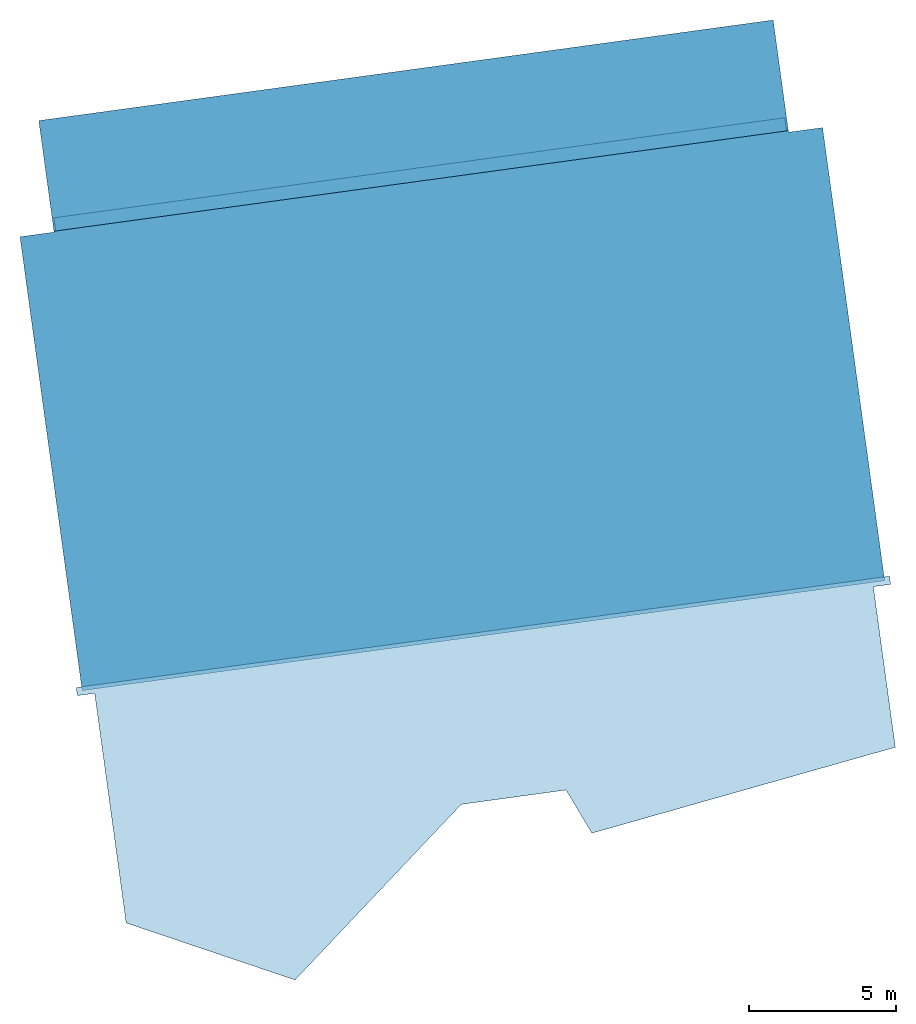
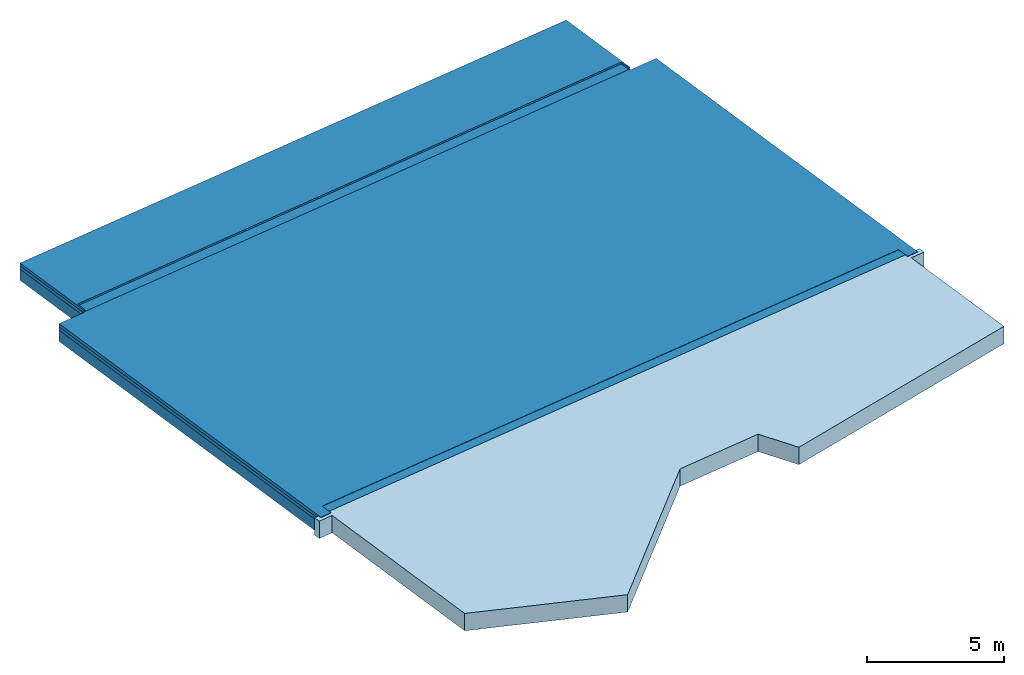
# One storey: 6 building element parts, 1 slab, 2 elements without a shape of their own.
"""IFC2X3 building model written with IfcOpenShell, lengths in metres."""

from ifc_helpers import new_model, entity, si_unit, converted_unit, derived_unit, money_unit, direction, frame, origin_with_axes, place, context, subcontext, project, spatial, polyline, outline, extrude, boolean, faceted_brep, material, layer, layer_set, layer_usage, type_object, element, aggregate, save


model = new_model("IFC2X3")

# Units and contexts
model_context = context("Model", 3, precision=1e-05, world=origin_with_axes(), true_north=direction((0.0, 1.0)))
body_context = subcontext(model_context, "Body", "Model", "MODEL_VIEW")
ifc_project = project(units=[si_unit("LENGTHUNIT", "METRE"), si_unit("AREAUNIT", "SQUARE_METRE"), si_unit("VOLUMEUNIT", "CUBIC_METRE"), converted_unit("PLANEANGLEUNIT", "DEGREE", entity("IfcPlaneAngleMeasure", 0.0174532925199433), si_unit("PLANEANGLEUNIT", "RADIAN"), dimensions=[0, 0, 0, 0, 0, 0, 0]), money_unit("EUR"), converted_unit("TIMEUNIT", "Year", entity("IfcTimeMeasure", 31557600.0), si_unit("TIMEUNIT", "SECOND"), dimensions=[0, 0, 1, 0, 0, 0, 0]), si_unit("MASSUNIT", "GRAM", prefix="KILO"), si_unit("THERMODYNAMICTEMPERATUREUNIT", "DEGREE_CELSIUS"), si_unit("LUMINOUSINTENSITYUNIT", "LUMEN"), si_unit("ENERGYUNIT", "JOULE", prefix="MEGA"), derived_unit("THERMALCONDUCTANCEUNIT", [(si_unit("POWERUNIT", "WATT"), 1), (si_unit("LENGTHUNIT", "METRE"), -1), (si_unit("THERMODYNAMICTEMPERATUREUNIT", "KELVIN"), -1)]), derived_unit("SPECIFICHEATCAPACITYUNIT", [(si_unit("ENERGYUNIT", "JOULE"), 1), (si_unit("MASSUNIT", "GRAM", prefix="KILO"), -1), (si_unit("THERMODYNAMICTEMPERATUREUNIT", "KELVIN"), -1)]), derived_unit("MASSDENSITYUNIT", [(si_unit("MASSUNIT", "GRAM", prefix="KILO"), 1), (si_unit("VOLUMEUNIT", "CUBIC_METRE"), -1)])], contexts=[model_context])

# Site, building, storey
site_placement = place(None, origin_with_axes())
site = spatial("IfcSite", under=ifc_project, at=site_placement, Name="Gelände", CompositionType="ELEMENT")
building_placement = place(site_placement, origin_with_axes())
building = spatial("IfcBuilding", under=site, at=building_placement, Name="Gebäude", CompositionType="ELEMENT")
storey_placement = place(building_placement, frame((0.0, 0.0, -3.0), z_axis=(0.0, 0.0, 1.0), x_axis=(1.0, 0.0, 0.0)))
storey = spatial("IfcBuildingStorey", under=building, at=storey_placement, Name="Gelände", CompositionType="ELEMENT", Elevation=-3.0)

# Slab
ifc_material_1 = material(Name="Dämmung, hart Mineralwolle")
ifc_layer_1 = layer(ifc_material_1, 0.12, ventilated="UNKNOWN")
ifc_material_2 = material(Name="Boden, Schüttung")
ifc_layer_2 = layer(ifc_material_2, 0.15, ventilated="UNKNOWN")
ifc_material_3 = material(Name="Boden, Kies")
ifc_layer_3 = layer(ifc_material_3, 0.5, ventilated="UNKNOWN")
ifc_layer_set = layer_set([ifc_layer_1, ifc_layer_2, ifc_layer_3], Name="BO |\xa0unter Bopl Geräte")
ifc_layer_usage = layer_usage(ifc_layer_set, "AXIS3", "NEGATIVE", 0.77)
slab_type_1 = type_object("IfcSlabType", Name="BO |\xa0unter Bopl Geräte 770", PredefinedType="FLOOR")
slab_1_placement = place(storey_placement, frame((86.34992314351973, -151.007854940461, 2.566999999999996), z_axis=(0.0, 0.0, 1.0), x_axis=(1.0, 0.0, 0.0)))
element("IfcSlab", 1, at=slab_1_placement, inside=storey, type_object=slab_type_1, material=ifc_layer_usage, Name="Decke-005", PredefinedType="FLOOR", context=body_context, shape_type="SweptSolid", body=[
    extrude(outline(polyline([(0.0, 0.0), (0.03799914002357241, -0.2774096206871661), (0.6250175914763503, -0.1970007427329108), (1.69182758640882, -7.985160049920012), (7.420755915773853, -9.918800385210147), (13.05815841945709, -3.963108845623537), (16.61348512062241, -3.476105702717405), (17.48530183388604, -4.939782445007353), (27.77945616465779, -2.026014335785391), (27.03341737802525, 3.420380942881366), (27.62043574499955, 3.500789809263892), (27.58243660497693, 3.778199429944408), (0.0, 0.0)])), frame((0.0, 0.0, -0.77), z_axis=(0.0, 0.0, 1.0), x_axis=(1.0, 0.0, 0.0)), (0.0, 0.0, 1.0), 0.77),
])

# Slab, building element parts
slab_2_placement = place(storey_placement, frame((110.4999720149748, -132.1216968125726, 2.659999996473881), z_axis=(0.0, 0.0, 1.0), x_axis=(1.0, 0.0, 0.0)))
slab_2 = element("IfcSlab", 2, at=slab_2_placement, inside=storey, type_object=slab_type_1, Name="Decke-005", PredefinedType="FLOOR")
building_element_part_1_placement = place(slab_2_placement, origin_with_axes())
building_element_part_1 = element("IfcBuildingElementPart", 3, at=building_element_part_1_placement, material=ifc_material_3, Name="Boden, Kies", context=body_context, shape_type="CSG", body=[
    boolean("DIFFERENCE", extrude(outline(polyline([(0.0, 0.0), (-0.5140061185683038, 3.752459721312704), (-25.4208001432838, 0.3407656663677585), (-24.90679402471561, -3.411694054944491), (0.0, 0.0)])), frame((0.0, 0.0, -0.77), z_axis=(0.0, 0.0, 1.0), x_axis=(1.0, 0.0, 0.0)), (0.0, 0.0, 1.0), 0.5), faceted_brep([(-24.8473491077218, -3.403551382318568, -0.0779999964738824), (-0.05944487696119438, -0.008142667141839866, -0.0779999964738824), (-0.0594448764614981, -0.008142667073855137, 0.0), (-24.84734910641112, -3.403551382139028, 0.0), (-24.90844145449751, -2.957551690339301, -0.0779999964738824), (-0.1205372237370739, 0.4378570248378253, -0.0779999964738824), (-0.1205372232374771, 0.4378570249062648, 0.0), (-24.90844145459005, -2.957551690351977, 0.0)], [[[0, 1, 2, 3]], [[1, 0, 4, 5]], [[6, 2, 1, 5]], [[7, 3, 2, 6]], [[0, 3, 7, 4]], [[7, 6, 5, 4]]])),
])
building_element_part_2_placement = place(slab_2_placement, origin_with_axes())
building_element_part_2 = element("IfcBuildingElementPart", 4, at=building_element_part_2_placement, material=ifc_material_2, Name="Boden, Schüttung", context=body_context, shape_type="CSG", body=[
    boolean("DIFFERENCE", extrude(outline(polyline([(0.0, 0.0), (-0.5140061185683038, 3.752459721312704), (-25.4208001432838, 0.3407656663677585), (-24.90679402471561, -3.411694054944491), (0.0, 0.0)])), frame((0.0, 0.0, -0.27), z_axis=(0.0, 0.0, 1.0), x_axis=(1.0, 0.0, 0.0)), (0.0, 0.0, 1.0), 0.15), faceted_brep([(-24.8473491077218, -3.403551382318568, -0.0779999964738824), (-0.05944487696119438, -0.008142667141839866, -0.0779999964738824), (-0.0594448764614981, -0.008142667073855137, 0.0), (-24.84734910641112, -3.403551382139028, 0.0), (-24.90844145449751, -2.957551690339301, -0.0779999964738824), (-0.1205372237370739, 0.4378570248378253, -0.0779999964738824), (-0.1205372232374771, 0.4378570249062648, 0.0), (-24.90844145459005, -2.957551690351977, 0.0)], [[[0, 1, 2, 3]], [[1, 0, 4, 5]], [[6, 2, 1, 5]], [[7, 3, 2, 6]], [[0, 3, 7, 4]], [[7, 6, 5, 4]]])),
])
building_element_part_3_placement = place(slab_2_placement, origin_with_axes())
building_element_part_3 = element("IfcBuildingElementPart", 5, at=building_element_part_3_placement, material=ifc_material_1, Name="Dämmung, hart Mineralwolle", context=body_context, shape_type="CSG", body=[
    boolean("DIFFERENCE", extrude(outline(polyline([(0.0, 0.0), (-0.5140061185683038, 3.752459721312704), (-25.4208001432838, 0.3407656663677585), (-24.90679402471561, -3.411694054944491), (0.0, 0.0)])), frame((0.0, 0.0, -0.12), z_axis=(0.0, 0.0, 1.0), x_axis=(1.0, 0.0, 0.0)), (0.0, 0.0, 1.0), 0.12), faceted_brep([(-24.8473491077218, -3.403551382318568, -0.0779999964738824), (-0.05944487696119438, -0.008142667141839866, -0.0779999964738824), (-0.0594448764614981, -0.008142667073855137, 0.0), (-24.84734910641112, -3.403551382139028, 0.0), (-24.90844145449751, -2.957551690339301, -0.0779999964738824), (-0.1205372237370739, 0.4378570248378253, -0.0779999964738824), (-0.1205372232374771, 0.4378570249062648, 0.0), (-24.90844145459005, -2.957551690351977, 0.0)], [[[0, 1, 2, 3]], [[1, 0, 4, 5]], [[6, 2, 1, 5]], [[7, 3, 2, 6]], [[0, 3, 7, 4]], [[7, 6, 5, 4]]])),
])
aggregate(slab_2, [building_element_part_1, building_element_part_2, building_element_part_3])

slab_type_2 = type_object("IfcSlabType", Name="BO |\xa0unter Bopl 790", PredefinedType="FLOOR")
slab_3_placement = place(storey_placement, frame((84.44271649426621, -135.7212594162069, 2.581999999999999), z_axis=(0.0, 0.0, 1.0), x_axis=(1.0, 0.0, 0.0)))
slab_3 = element("IfcSlab", 6, at=slab_3_placement, inside=storey, type_object=slab_type_2, Name="Decke-005", PredefinedType="FLOOR")
building_element_part_4_placement = place(slab_3_placement, origin_with_axes())
building_element_part_4 = element("IfcBuildingElementPart", 7, at=building_element_part_4_placement, material=ifc_material_2, Name="Boden, Schüttung", context=body_context, shape_type="CSG", body=[
    boolean("DIFFERENCE", extrude(outline(polyline([(0.0, 0.0), (2.108816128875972, -15.39524005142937), (29.32467581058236, -11.6672537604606), (27.21925246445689, 3.703217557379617), (26.06471963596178, 3.54507143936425), (26.05725552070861, 3.599562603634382), (1.150461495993, 0.1878685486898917), (1.154532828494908, 0.1581461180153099), (0.0, 0.0)])), frame((0.0, 0.0, -0.29), z_axis=(0.0, 0.0, 1.0), x_axis=(1.0, 0.0, 0.0)), (0.0, 0.0, 1.0), 0.15), faceted_brep([(2.571990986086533, -15.33179507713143, -0.01500000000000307), (28.86150101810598, -11.73069872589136, -0.01500000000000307), (28.86150101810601, -11.73069872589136, 0.0), (2.571990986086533, -15.33179507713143, 0.0), (2.499383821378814, -14.80173239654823, -0.01500000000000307), (28.78889385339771, -11.20063604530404, -0.01500000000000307), (28.78889385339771, -11.20063604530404, 0.0), (2.499383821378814, -14.80173239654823, 0.0)], [[[0, 1, 2, 3]], [[1, 0, 4, 5]], [[6, 2, 1, 5]], [[7, 3, 2, 6]], [[0, 3, 7, 4]], [[7, 6, 5, 4]]])),
])
building_element_part_5_placement = place(slab_3_placement, origin_with_axes())
building_element_part_5 = element("IfcBuildingElementPart", 8, at=building_element_part_5_placement, material=ifc_material_1, Name="Dämmung, hart Mineralwolle", context=body_context, shape_type="CSG", body=[
    boolean("DIFFERENCE", extrude(outline(polyline([(0.0, 0.0), (2.108816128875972, -15.39524005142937), (29.32467581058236, -11.6672537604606), (27.21925246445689, 3.703217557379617), (26.06471963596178, 3.54507143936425), (26.05725552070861, 3.599562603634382), (1.150461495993, 0.1878685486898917), (1.154532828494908, 0.1581461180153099), (0.0, 0.0)])), frame((0.0, 0.0, -0.14), z_axis=(0.0, 0.0, 1.0), x_axis=(1.0, 0.0, 0.0)), (0.0, 0.0, 1.0), 0.14), faceted_brep([(2.571990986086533, -15.33179507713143, -0.01500000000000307), (28.86150101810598, -11.73069872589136, -0.01500000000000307), (28.86150101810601, -11.73069872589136, 0.0), (2.571990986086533, -15.33179507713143, 0.0), (2.499383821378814, -14.80173239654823, -0.01500000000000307), (28.78889385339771, -11.20063604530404, -0.01500000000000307), (28.78889385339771, -11.20063604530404, 0.0), (2.499383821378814, -14.80173239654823, 0.0)], [[[0, 1, 2, 3]], [[1, 0, 4, 5]], [[6, 2, 1, 5]], [[7, 3, 2, 6]], [[0, 3, 7, 4]], [[7, 6, 5, 4]]])),
])
building_element_part_6_placement = place(slab_3_placement, origin_with_axes())
building_element_part_6 = element("IfcBuildingElementPart", 9, at=building_element_part_6_placement, material=ifc_material_3, Name="Boden, Kies", context=body_context, shape_type="CSG", body=[
    boolean("DIFFERENCE", extrude(outline(polyline([(0.0, 0.0), (2.108816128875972, -15.39524005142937), (29.32467581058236, -11.6672537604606), (27.21925246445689, 3.703217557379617), (26.06471963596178, 3.54507143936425), (26.05725552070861, 3.599562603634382), (1.150461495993, 0.1878685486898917), (1.154532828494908, 0.1581461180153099), (0.0, 0.0)])), frame((0.0, 0.0, -0.79), z_axis=(0.0, 0.0, 1.0), x_axis=(1.0, 0.0, 0.0)), (0.0, 0.0, 1.0), 0.5), faceted_brep([(2.571990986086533, -15.33179507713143, -0.01500000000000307), (28.86150101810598, -11.73069872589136, -0.01500000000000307), (28.86150101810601, -11.73069872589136, 0.0), (2.571990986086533, -15.33179507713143, 0.0), (2.499383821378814, -14.80173239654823, -0.01500000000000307), (28.78889385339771, -11.20063604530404, -0.01500000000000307), (28.78889385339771, -11.20063604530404, 0.0), (2.499383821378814, -14.80173239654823, 0.0)], [[[0, 1, 2, 3]], [[1, 0, 4, 5]], [[6, 2, 1, 5]], [[7, 3, 2, 6]], [[0, 3, 7, 4]], [[7, 6, 5, 4]]])),
])
aggregate(slab_3, [building_element_part_4, building_element_part_5, building_element_part_6])

save(model, "model.ifc")
